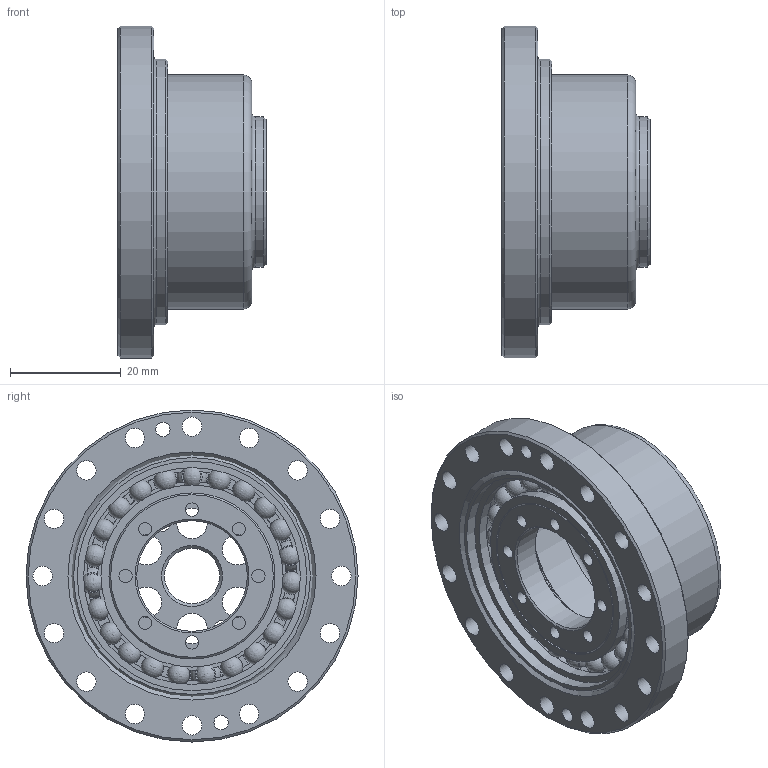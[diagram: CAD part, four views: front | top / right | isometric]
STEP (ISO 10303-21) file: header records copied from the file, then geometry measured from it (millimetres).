
FILE_DESCRIPTION(/* description */ (''),/* implementation_level */ '2;1');
FILE_NAME(/* name */ 'Getriebeset_CTG_43_HS.stp',/* time_stamp */ '2026-03-09T10:50:51+01:00',/* author */ (''),/* organization */ (''),/* preprocessor_version */ 'ST-DEVELOPER v19.4',/* originating_system */ 'SIEMENS PLM Software NX2212.9120',/* authorisation */ '');
FILE_SCHEMA (('AUTOMOTIVE_DESIGN { 1 0 10303 214 3 1 1 1 }'));
Length unit declared in the file: millimetre
Products named in the file (1): Getriebeset_CTG_43_HS
Bounding box: 26.75 x 60 x 60 mm (x, y, z)
Volume: 17290.8 mm3; surface area: 24119 mm2
Topology: 29 solids, 29 shells, 256 faces, 735 edges, 497 vertices
Faces by surface type: cylinder 91, plane 67, torus 46, sphere 35, cone 15, bspline 2
Full cylindrical faces by diameter (mm): 2.4 x8, 2.6 x4, 3.5 x16, 5.5 x6, 10 x1, 20 x1, 27.2 x1, 28 x1, 30 x2, 32.9 x3, 37 x1, 39.2 x2, 41.5 x2, 42.3 x1, 43 x1, 43.8 x1, 48 x1, 60 x1
Entity records: 9858 total; most frequent: CARTESIAN_POINT 3847, DIRECTION 1130, ORIENTED_EDGE 1084, EDGE_CURVE 542, AXIS2_PLACEMENT_3D 527, VERTEX_POINT 427, EDGE_LOOP 396, FACE_BOUND 281
